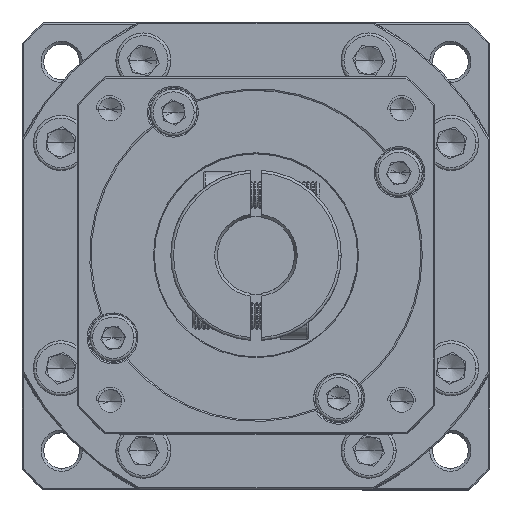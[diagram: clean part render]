
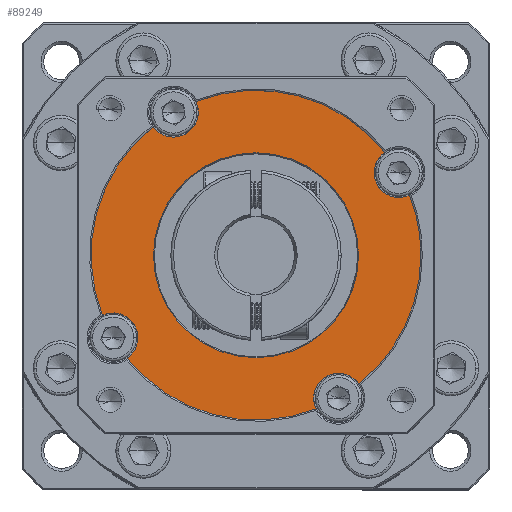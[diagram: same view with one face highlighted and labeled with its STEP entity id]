
A CAD part, top view. The second image highlights one B-rep face of the part: STEP entity #89249.
In plain terms, the highlighted planar face has unit normal (0, 0, 1).
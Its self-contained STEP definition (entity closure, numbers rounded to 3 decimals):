
#1440 = CIRCLE ( 'NONE', #55025, 30. ) ;
#1829 = CARTESIAN_POINT ( 'NONE',  ( -50.36, 31.147, 13.42 ) ) ;
#3063 = CARTESIAN_POINT ( 'NONE',  ( -69.004, 31.147, 13.42 ) ) ;
#3438 = ORIENTED_EDGE ( 'NONE', *, *, #24553, .T. ) ;
#4164 = DIRECTION ( 'NONE',  ( 1., 0., 0. ) ) ;
#4432 = CIRCLE ( 'NONE', #16465, 4.5 ) ;
#5281 = ORIENTED_EDGE ( 'NONE', *, *, #50969, .T. ) ;
#6402 = DIRECTION ( 'NONE',  ( 0., 0., -1. ) ) ;
#7284 = CIRCLE ( 'NONE', #8759, 30. ) ;
#8759 = AXIS2_PLACEMENT_3D ( 'NONE', #108589, #53726, #117764 ) ;
#8899 = DIRECTION ( 'NONE',  ( 0., 0., 1. ) ) ;
#9196 = CARTESIAN_POINT ( 'NONE',  ( -50.287, 7.702, 13.42 ) ) ;
#9637 = CARTESIAN_POINT ( 'NONE',  ( -41.072, 42.092, 13.42 ) ) ;
#12348 = DIRECTION ( 'NONE',  ( 1., 0., 0. ) ) ;
#12722 = CARTESIAN_POINT ( 'NONE',  ( -69.004, 31.147, 13.42 ) ) ;
#13749 = ORIENTED_EDGE ( 'NONE', *, *, #79590, .F. ) ;
#14377 = ORIENTED_EDGE ( 'NONE', *, *, #38799, .F. ) ;
#14746 = CARTESIAN_POINT ( 'NONE',  ( -69.004, 31.147, 13.42 ) ) ;
#16465 = AXIS2_PLACEMENT_3D ( 'NONE', #82386, #27404, #91565 ) ;
#17629 = CARTESIAN_POINT ( 'NONE',  ( -45.559, 49.865, 13.42 ) ) ;
#18049 = VERTEX_POINT ( 'NONE', #29011 ) ;
#18636 = AXIS2_PLACEMENT_3D ( 'NONE', #106656, #51814, #115870 ) ;
#18777 = CIRCLE ( 'NONE', #43679, 4.5 ) ;
#19681 = VERTEX_POINT ( 'NONE', #49454 ) ;
#21217 = PLANE ( 'NONE',  #94875 ) ;
#21905 = AXIS2_PLACEMENT_3D ( 'NONE', #14746, #78999, #23983 ) ;
#21986 = DIRECTION ( 'NONE',  ( 1., 0., 0. ) ) ;
#22343 = ORIENTED_EDGE ( 'NONE', *, *, #103215, .F. ) ;
#23063 = ORIENTED_EDGE ( 'NONE', *, *, #81958, .F. ) ;
#23983 = DIRECTION ( 'NONE',  ( 1., 0., 0. ) ) ;
#24553 = EDGE_CURVE ( 'NONE', #33757, #69382, #80062, .T. ) ;
#25382 = CARTESIAN_POINT ( 'NONE',  ( -69.004, 31.147, 13.42 ) ) ;
#25749 = EDGE_CURVE ( 'NONE', #95702, #104313, #36697, .T. ) ;
#27404 = DIRECTION ( 'NONE',  ( 0., 0., 1. ) ) ;
#27557 = EDGE_CURVE ( 'NONE', #19681, #102768, #1440, .T. ) ;
#27742 = FACE_OUTER_BOUND ( 'NONE', #41147, .T. ) ;
#28705 = CARTESIAN_POINT ( 'NONE',  ( -69.004, 31.147, 13.42 ) ) ;
#29011 = CARTESIAN_POINT ( 'NONE',  ( -92.449, 12.43, 13.42 ) ) ;
#30304 = VERTEX_POINT ( 'NONE', #17629 ) ;
#32173 = EDGE_CURVE ( 'NONE', #18049, #75183, #96458, .T. ) ;
#32215 = DIRECTION ( 'NONE',  ( 0., 0., 1. ) ) ;
#32292 = CARTESIAN_POINT ( 'NONE',  ( -39.004, 31.147, 13.42 ) ) ;
#33757 = VERTEX_POINT ( 'NONE', #9196 ) ;
#34634 = DIRECTION ( 'NONE',  ( 1., 0., 0. ) ) ;
#35726 = ORIENTED_EDGE ( 'NONE', *, *, #72845, .F. ) ;
#36697 = CIRCLE ( 'NONE', #84691, 18.644 ) ;
#37505 = EDGE_CURVE ( 'NONE', #104313, #95702, #101238, .T. ) ;
#37800 = CARTESIAN_POINT ( 'NONE',  ( -54.004, 5.166, 13.42 ) ) ;
#37940 = DIRECTION ( 'NONE',  ( 1., 0., 0. ) ) ;
#38799 = EDGE_CURVE ( 'NONE', #49231, #75183, #4432, .T. ) ;
#38912 = CARTESIAN_POINT ( 'NONE',  ( -84.004, 57.128, 13.42 ) ) ;
#41147 = EDGE_LOOP ( 'NONE', ( #22343, #52096, #14377, #35726, #3438, #5281, #13749, #23063, #75098, #61513, #103841, #113741, #112488 ) ) ;
#43679 = AXIS2_PLACEMENT_3D ( 'NONE', #37800, #101879, #47031 ) ;
#45294 = DIRECTION ( 'NONE',  ( 0., 0., 1. ) ) ;
#47031 = DIRECTION ( 'NONE',  ( 1., 0., 0. ) ) ;
#47706 = DIRECTION ( 'NONE',  ( 0., 0., 1. ) ) ;
#48156 = DIRECTION ( 'NONE',  ( 1., 0., 0. ) ) ;
#48385 = EDGE_LOOP ( 'NONE', ( #53568, #118112 ) ) ;
#49231 = VERTEX_POINT ( 'NONE', #66511 ) ;
#49307 = FACE_BOUND ( 'NONE', #48385, .T. ) ;
#49454 = CARTESIAN_POINT ( 'NONE',  ( -87.721, 54.592, 13.42 ) ) ;
#50969 = EDGE_CURVE ( 'NONE', #69382, #59181, #61654, .T. ) ;
#51814 = DIRECTION ( 'NONE',  ( 0., 0., 1. ) ) ;
#52096 = ORIENTED_EDGE ( 'NONE', *, *, #32173, .T. ) ;
#53568 = ORIENTED_EDGE ( 'NONE', *, *, #25749, .T. ) ;
#53623 = CIRCLE ( 'NONE', #87578, 4.5 ) ;
#53726 = DIRECTION ( 'NONE',  ( 0., 0., 1. ) ) ;
#55025 = AXIS2_PLACEMENT_3D ( 'NONE', #28705, #92830, #37940 ) ;
#55340 = AXIS2_PLACEMENT_3D ( 'NONE', #12722, #77026, #21986 ) ;
#56803 = CIRCLE ( 'NONE', #103541, 4.5 ) ;
#58962 = AXIS2_PLACEMENT_3D ( 'NONE', #100156, #45294, #109392 ) ;
#59181 = VERTEX_POINT ( 'NONE', #9637 ) ;
#59283 = DIRECTION ( 'NONE',  ( 0., 0., -1. ) ) ;
#60447 = CIRCLE ( 'NONE', #18636, 4.5 ) ;
#61513 = ORIENTED_EDGE ( 'NONE', *, *, #66873, .F. ) ;
#61550 = CARTESIAN_POINT ( 'NONE',  ( -69.004, 31.147, 13.42 ) ) ;
#61654 = CIRCLE ( 'NONE', #21905, 30. ) ;
#64075 = CARTESIAN_POINT ( 'NONE',  ( -84.004, 57.128, 13.42 ) ) ;
#64852 = AXIS2_PLACEMENT_3D ( 'NONE', #25382, #89594, #34634 ) ;
#65625 = CARTESIAN_POINT ( 'NONE',  ( -90.485, 16.147, 13.42 ) ) ;
#66511 = CARTESIAN_POINT ( 'NONE',  ( -58.504, 5.166, 13.42 ) ) ;
#66873 = EDGE_CURVE ( 'NONE', #99280, #67989, #56803, .T. ) ;
#67101 = CARTESIAN_POINT ( 'NONE',  ( -47.523, 46.147, 13.42 ) ) ;
#67527 = DIRECTION ( 'NONE',  ( 0., 0., 1. ) ) ;
#67989 = VERTEX_POINT ( 'NONE', #76221 ) ;
#68647 = CIRCLE ( 'NONE', #106085, 4.5 ) ;
#69382 = VERTEX_POINT ( 'NONE', #32292 ) ;
#70777 = DIRECTION ( 'NONE',  ( 1., 0., 0. ) ) ;
#72845 = EDGE_CURVE ( 'NONE', #33757, #49231, #18777, .T. ) ;
#73228 = DIRECTION ( 'NONE',  ( 1., 0., 0. ) ) ;
#74968 = VERTEX_POINT ( 'NONE', #67101 ) ;
#75098 = ORIENTED_EDGE ( 'NONE', *, *, #104890, .T. ) ;
#75183 = VERTEX_POINT ( 'NONE', #80874 ) ;
#76221 = CARTESIAN_POINT ( 'NONE',  ( -79.949, 59.079, 13.42 ) ) ;
#77026 = DIRECTION ( 'NONE',  ( 0., 0., 1. ) ) ;
#77082 = CIRCLE ( 'NONE', #58962, 4.5 ) ;
#78999 = DIRECTION ( 'NONE',  ( 0., 0., 1. ) ) ;
#79590 = EDGE_CURVE ( 'NONE', #74968, #59181, #53623, .T. ) ;
#80062 = CIRCLE ( 'NONE', #55340, 30. ) ;
#80874 = CARTESIAN_POINT ( 'NONE',  ( -58.059, 3.215, 13.42 ) ) ;
#81958 = EDGE_CURVE ( 'NONE', #30304, #74968, #60447, .T. ) ;
#82386 = CARTESIAN_POINT ( 'NONE',  ( -54.004, 5.166, 13.42 ) ) ;
#82725 = CARTESIAN_POINT ( 'NONE',  ( -79.504, 57.128, 13.42 ) ) ;
#84691 = AXIS2_PLACEMENT_3D ( 'NONE', #61550, #6402, #70777 ) ;
#87193 = CARTESIAN_POINT ( 'NONE',  ( -43.023, 46.147, 13.42 ) ) ;
#87578 = AXIS2_PLACEMENT_3D ( 'NONE', #87193, #32215, #96304 ) ;
#89190 = CARTESIAN_POINT ( 'NONE',  ( -87.648, 31.147, 13.42 ) ) ;
#89249 = ADVANCED_FACE ( 'NONE', ( #49307, #27742 ), #21217, .T. ) ;
#89594 = DIRECTION ( 'NONE',  ( 0., 0., 1. ) ) ;
#91565 = DIRECTION ( 'NONE',  ( 1., 0., 0. ) ) ;
#92830 = DIRECTION ( 'NONE',  ( 0., 0., 1. ) ) ;
#93468 = CARTESIAN_POINT ( 'NONE',  ( -96.936, 20.202, 13.42 ) ) ;
#94257 = EDGE_CURVE ( 'NONE', #114972, #102768, #77082, .T. ) ;
#94875 = AXIS2_PLACEMENT_3D ( 'NONE', #3063, #67527, #12348 ) ;
#95702 = VERTEX_POINT ( 'NONE', #1829 ) ;
#96304 = DIRECTION ( 'NONE',  ( 1., 0., 0. ) ) ;
#96458 = CIRCLE ( 'NONE', #64852, 30. ) ;
#99267 = AXIS2_PLACEMENT_3D ( 'NONE', #38912, #103020, #48156 ) ;
#99280 = VERTEX_POINT ( 'NONE', #82725 ) ;
#100156 = CARTESIAN_POINT ( 'NONE',  ( -94.985, 16.147, 13.42 ) ) ;
#101238 = CIRCLE ( 'NONE', #106809, 18.644 ) ;
#101879 = DIRECTION ( 'NONE',  ( 0., 0., 1. ) ) ;
#102576 = CARTESIAN_POINT ( 'NONE',  ( -94.985, 16.147, 13.42 ) ) ;
#102768 = VERTEX_POINT ( 'NONE', #93468 ) ;
#103020 = DIRECTION ( 'NONE',  ( 0., 0., 1. ) ) ;
#103215 = EDGE_CURVE ( 'NONE', #18049, #114972, #68647, .T. ) ;
#103541 = AXIS2_PLACEMENT_3D ( 'NONE', #64075, #8899, #73228 ) ;
#103841 = ORIENTED_EDGE ( 'NONE', *, *, #117546, .F. ) ;
#104313 = VERTEX_POINT ( 'NONE', #89190 ) ;
#104890 = EDGE_CURVE ( 'NONE', #30304, #67989, #7284, .T. ) ;
#106085 = AXIS2_PLACEMENT_3D ( 'NONE', #102576, #47706, #111812 ) ;
#106656 = CARTESIAN_POINT ( 'NONE',  ( -43.023, 46.147, 13.42 ) ) ;
#106809 = AXIS2_PLACEMENT_3D ( 'NONE', #114107, #59283, #4164 ) ;
#108589 = CARTESIAN_POINT ( 'NONE',  ( -69.004, 31.147, 13.42 ) ) ;
#109392 = DIRECTION ( 'NONE',  ( 1., 0., 0. ) ) ;
#110148 = CIRCLE ( 'NONE', #99267, 4.5 ) ;
#111812 = DIRECTION ( 'NONE',  ( 1., 0., 0. ) ) ;
#112488 = ORIENTED_EDGE ( 'NONE', *, *, #94257, .F. ) ;
#113741 = ORIENTED_EDGE ( 'NONE', *, *, #27557, .T. ) ;
#114107 = CARTESIAN_POINT ( 'NONE',  ( -69.004, 31.147, 13.42 ) ) ;
#114972 = VERTEX_POINT ( 'NONE', #65625 ) ;
#115870 = DIRECTION ( 'NONE',  ( 1., 0., 0. ) ) ;
#117546 = EDGE_CURVE ( 'NONE', #19681, #99280, #110148, .T. ) ;
#117764 = DIRECTION ( 'NONE',  ( 1., 0., 0. ) ) ;
#118112 = ORIENTED_EDGE ( 'NONE', *, *, #37505, .T. ) ;
